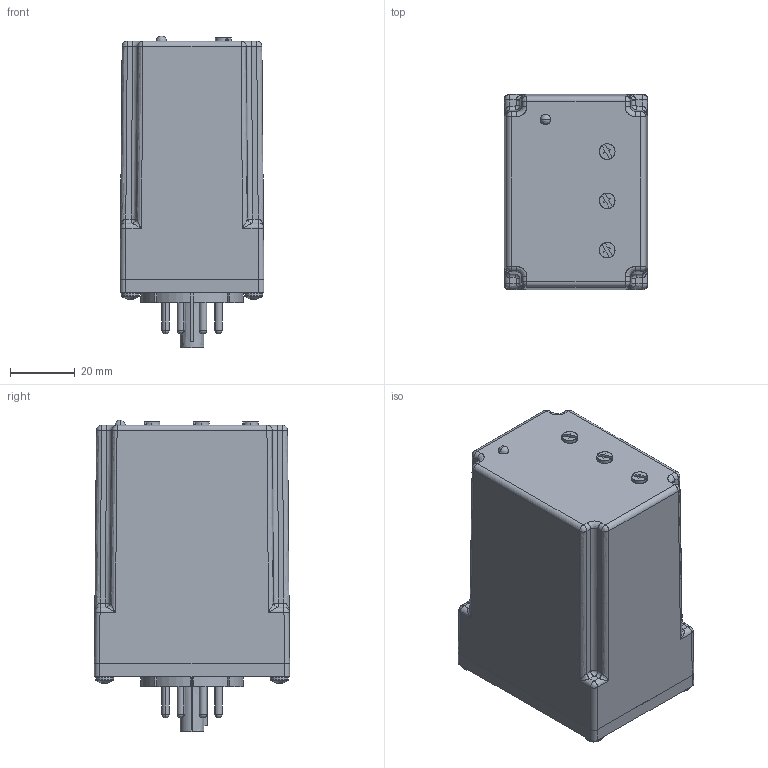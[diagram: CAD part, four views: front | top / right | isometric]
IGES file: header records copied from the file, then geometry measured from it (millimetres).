
Start section: SolidWorks IGES file using analytic representation for surfaces
Global section: file name: D:\Modeling Work\Macromatic\2019\V HI eCAD package\VHi Package\VHi-3Pot\VHi-3Pot.IGS; native system: SolidWorks 2019; preprocessor: SolidWorks 2019; author: mdahl; date: 190520.203805; units: inch
Bounding box: 44.45 x 60.33 x 96.33 mm (x, y, z)
Surface area: 29088 mm2 (no closed solid volume)
Topology: 0 solids, 0 shells, 723 faces, 8810 edges, 8740 vertices
Faces by surface type: bspline 367, revolution 356
